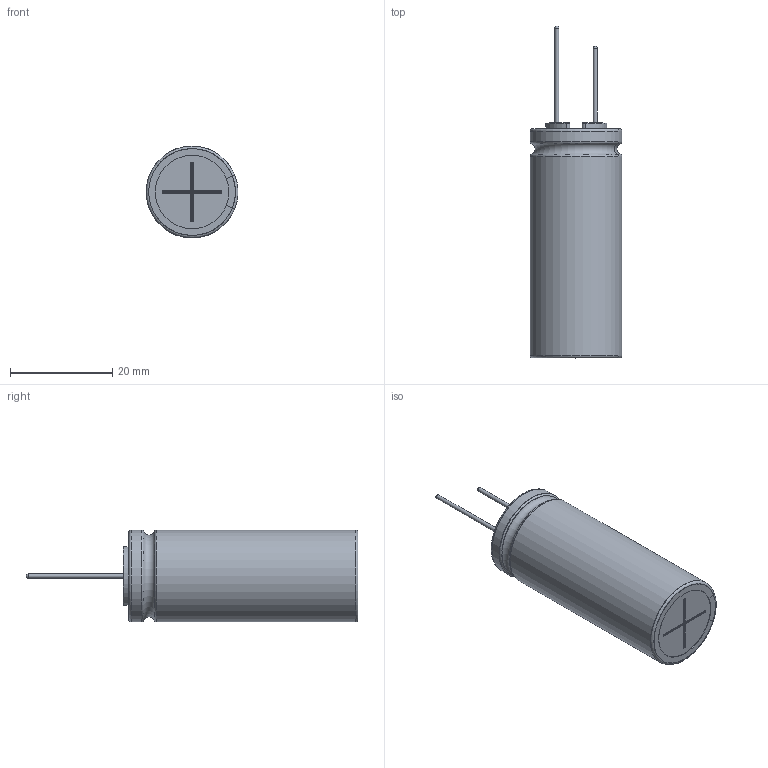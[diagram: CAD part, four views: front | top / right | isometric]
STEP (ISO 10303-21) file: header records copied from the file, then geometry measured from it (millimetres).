
FILE_DESCRIPTION(/* description */ (''),/* implementation_level */ '2;1');
FILE_NAME(/* name */ '18x46_Lead.stp',/* time_stamp */ '2017-09-05T15:02:02+09:00',/* author */ (''),/* organization */ (''),/* preprocessor_version */ 'ST-DEVELOPER v16',/* originating_system */ 'SIEMENS PLM Software NX 11.0',/* authorisation */ '');
FILE_SCHEMA (('AUTOMOTIVE_DESIGN { 1 0 10303 214 3 1 1 1 }'));
Length unit declared in the file: millimetre
Products named in the file (1): 18x46_Lead_0
Bounding box: 17.97 x 65 x 18 mm (x, y, z)
Volume: 11383.7 mm3; surface area: 8621.4 mm2
Topology: 3 solids, 3 shells, 132 faces, 328 edges, 205 vertices
Faces by surface type: cylinder 50, torus 35, plane 33, sphere 6, bspline 6, extrusion 2
Full cylindrical faces by diameter (mm): 0.8 x2, 17.8 x2
Entity records: 4908 total; most frequent: CARTESIAN_POINT 1353, DIRECTION 748, ORIENTED_EDGE 624, EDGE_CURVE 312, AXIS2_PLACEMENT_3D 311, VERTEX_POINT 200, CIRCLE 174, EDGE_LOOP 146
